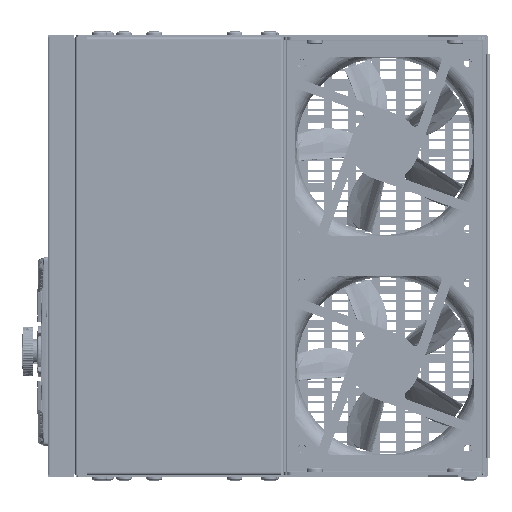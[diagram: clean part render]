
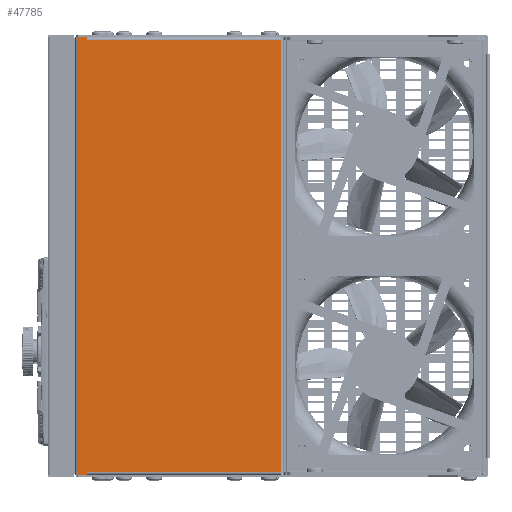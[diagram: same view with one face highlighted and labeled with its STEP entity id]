
A CAD part, front view. The second image highlights one B-rep face of the part: STEP entity #47785.
In plain terms, the highlighted planar face has unit normal (0, -1, 0).
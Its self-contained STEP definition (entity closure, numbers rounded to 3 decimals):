
#43410=DIRECTION('',(0.,0.,1.));
#43411=VECTOR('',#43410,215.);
#43412=CARTESIAN_POINT('',(-13.5,-142.5,-107.5));
#43413=LINE('',#43412,#43411);
#44078=DIRECTION('',(-1.,0.,0.));
#44079=VECTOR('',#44078,96.2);
#44080=CARTESIAN_POINT('',(-13.5,-142.5,107.5));
#44081=LINE('',#44080,#44079);
#44160=DIRECTION('',(-1.,0.,0.));
#44161=VECTOR('',#44160,5.);
#44162=CARTESIAN_POINT('',(-109.7,-142.5,-109.));
#44163=LINE('',#44162,#44161);
#44164=DIRECTION('',(1.,0.,0.));
#44165=VECTOR('',#44164,5.);
#44166=CARTESIAN_POINT('',(-114.7,-142.5,109.));
#44167=LINE('',#44166,#44165);
#44168=DIRECTION('',(0.,0.,-1.));
#44169=VECTOR('',#44168,1.5);
#44170=CARTESIAN_POINT('',(-109.7,-142.5,109.));
#44171=LINE('',#44170,#44169);
#44176=DIRECTION('',(1.,0.,0.));
#44177=VECTOR('',#44176,96.2);
#44178=CARTESIAN_POINT('',(-109.7,-142.5,-107.5));
#44179=LINE('',#44178,#44177);
#44372=DIRECTION('',(0.,0.,-1.));
#44373=VECTOR('',#44372,218.);
#44374=CARTESIAN_POINT('',(-114.7,-142.5,109.));
#44375=LINE('',#44374,#44373);
#44398=DIRECTION('',(0.,0.,1.));
#44399=VECTOR('',#44398,1.5);
#44400=CARTESIAN_POINT('',(-109.7,-142.5,-109.));
#44401=LINE('',#44400,#44399);
#45453=CARTESIAN_POINT('',(-13.5,-142.5,-107.5));
#45454=VERTEX_POINT('',#45453);
#45455=CARTESIAN_POINT('',(-13.5,-142.5,107.5));
#45456=VERTEX_POINT('',#45455);
#45471=CARTESIAN_POINT('',(-109.7,-142.5,107.5));
#45472=VERTEX_POINT('',#45471);
#45493=CARTESIAN_POINT('',(-109.7,-142.5,109.));
#45494=VERTEX_POINT('',#45493);
#45497=CARTESIAN_POINT('',(-109.7,-142.5,-107.5));
#45498=VERTEX_POINT('',#45497);
#45499=CARTESIAN_POINT('',(-109.7,-142.5,-109.));
#45500=VERTEX_POINT('',#45499);
#45501=CARTESIAN_POINT('',(-114.7,-142.5,-109.));
#45502=VERTEX_POINT('',#45501);
#45503=CARTESIAN_POINT('',(-114.7,-142.5,109.));
#45504=VERTEX_POINT('',#45503);
#47765=CARTESIAN_POINT('',(89.5,-142.5,110.));
#47766=DIRECTION('',(0.,-1.,0.));
#47767=DIRECTION('',(0.,0.,1.));
#47768=AXIS2_PLACEMENT_3D('',#47765,#47766,#47767);
#47769=PLANE('',#47768);
#47771=ORIENTED_EDGE('',*,*,#47770,.F.);
#47773=ORIENTED_EDGE('',*,*,#47772,.F.);
#47775=ORIENTED_EDGE('',*,*,#47774,.T.);
#47777=ORIENTED_EDGE('',*,*,#47776,.F.);
#47779=ORIENTED_EDGE('',*,*,#47778,.T.);
#47780=ORIENTED_EDGE('',*,*,#47755,.T.);
#47781=ORIENTED_EDGE('',*,*,#47660,.F.);
#47782=ORIENTED_EDGE('',*,*,#46676,.F.);
#47783=EDGE_LOOP('',(#47771,#47773,#47775,#47777,#47779,#47780,#47781,#47782));
#47784=FACE_OUTER_BOUND('',#47783,.F.);
#46676=EDGE_CURVE('',#45454,#45456,#43413,.T.);
#47660=EDGE_CURVE('',#45456,#45472,#44081,.T.);
#47755=EDGE_CURVE('',#45494,#45472,#44171,.T.);
#47770=EDGE_CURVE('',#45498,#45454,#44179,.T.);
#47772=EDGE_CURVE('',#45500,#45498,#44401,.T.);
#47774=EDGE_CURVE('',#45500,#45502,#44163,.T.);
#47776=EDGE_CURVE('',#45504,#45502,#44375,.T.);
#47778=EDGE_CURVE('',#45504,#45494,#44167,.T.);
#47785=ADVANCED_FACE('',(#47784),#47769,.T.);
